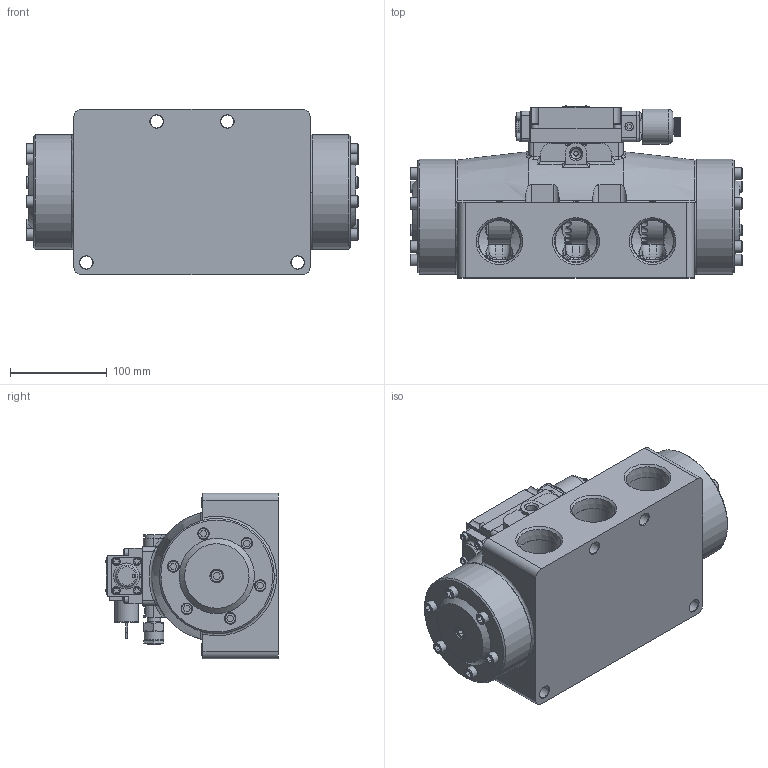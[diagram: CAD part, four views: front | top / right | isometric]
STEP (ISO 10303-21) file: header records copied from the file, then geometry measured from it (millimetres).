
FILE_DESCRIPTION(/* description */ (''),/* implementation_level */ '2;1');
FILE_NAME(/* name */ 'ESO12XOLZ.stp',/* time_stamp */ '2026-07-17T07:10:21-04:00',/* author */ ('rmckenna'),/* organization */ (''),/* preprocessor_version */ 'ST-DEVELOPER v20.1',/* originating_system */ 'Autodesk Inventor 2026',/* authorisation */ '');
FILE_SCHEMA (('AUTOMOTIVE_DESIGN { 1 0 10303 214 3 1 1 }'));
Products named in the file (1): Part27
Bounding box: 343.84 x 178.35 x 171.45 mm (x, y, z)
Volume: 4492877.2 mm3; surface area: 579165.8 mm2
Topology: 2 solids, 62 shells, 3231 faces, 8145 edges, 5164 vertices
Faces by surface type: plane 1426, cylinder 763, cone 469, torus 285, bspline 279, sphere 9
Full cylindrical faces by diameter (mm): 1.3 x1, 1.397 x1, 1.5 x1, 1.524 x3, 2.032 x11, 2.07 x2, 2.261 x2, 2.35 x4, 2.5 x1, 2.778 x2, 2.8 x1, 3 x4, 3.048 x2, 3.175 x10, 3.4 x1, 3.683 x13, 3.861 x2, 4.191 x2, 4.366 x2, 4.369 x3, 4.762 x2, 4.763 x5, 4.826 x12, 5.15 x4, 5.156 x8, 5.159 x4, 5.5 x1, 5.944 x2, 6.35 x1, 6.401 x12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
Entity records: 113299 total; most frequent: CARTESIAN_POINT 33459, ORIENTED_EDGE 16184, DIRECTION 15508, EDGE_CURVE 8092, AXIS2_PLACEMENT_3D 5816, VERTEX_POINT 5163, LINE 3876, VECTOR 3876
